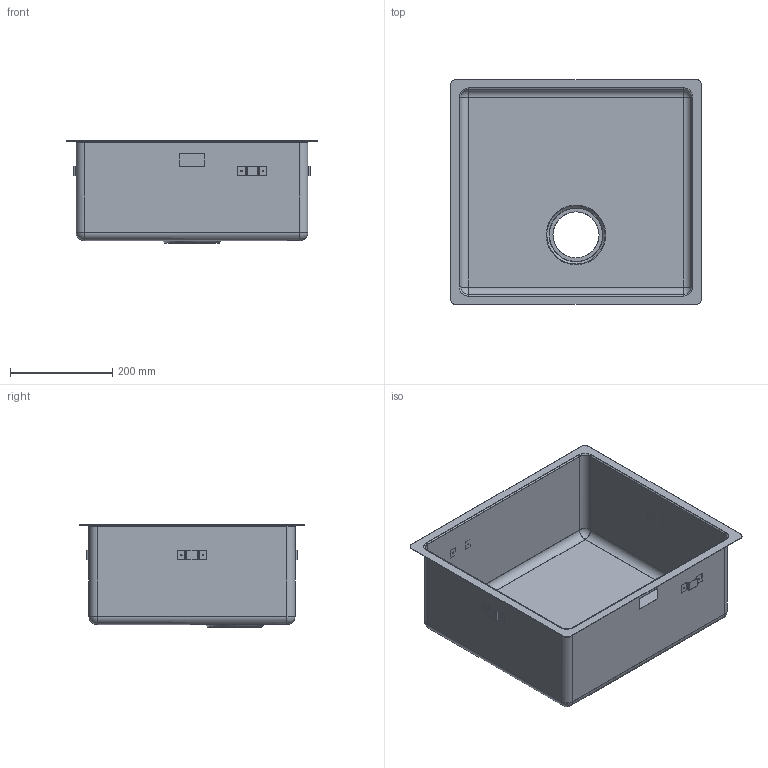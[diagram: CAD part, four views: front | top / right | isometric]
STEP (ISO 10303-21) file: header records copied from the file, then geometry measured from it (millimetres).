
FILE_DESCRIPTION(('CATIA V5 STEP Exchange'),'2;1');
FILE_NAME('C:\Users\linop\Desktop\VFU45SFR.stp','2020-11-16T07:39:49+00:00',('none'),('none'),'CATIA Version 5-6 Release 2014','CATIA V5 STEP AP203','none');
FILE_SCHEMA(('CONFIG_CONTROL_DESIGN'));
Length unit declared in the file: millimetre
Products named in the file (1): VFU45SFR
Bounding box: 490 x 440 x 200 mm (x, y, z)
Volume: 524419.4 mm3; surface area: 1055105.9 mm2
Topology: 5 solids, 5 shells, 186 faces, 468 edges, 296 vertices
Faces by surface type: plane 78, cylinder 72, bspline 28, sphere 8
Entity records: 8692 total; most frequent: CARTESIAN_POINT 4544, ORIENTED_EDGE 936, DIRECTION 645, EDGE_CURVE 468, VERTEX_POINT 296, VECTOR 260, LINE 260, AXIS2_PLACEMENT_3D 250
